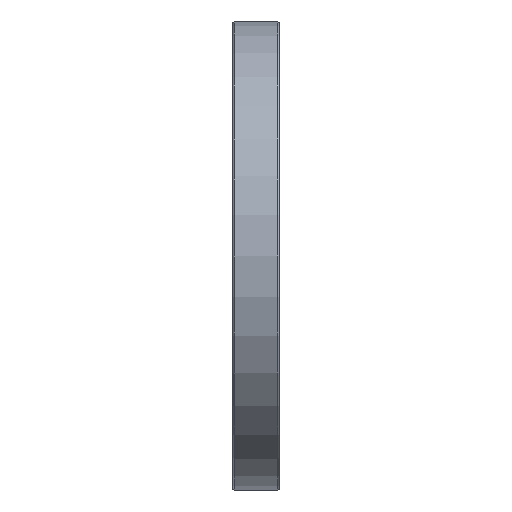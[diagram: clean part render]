
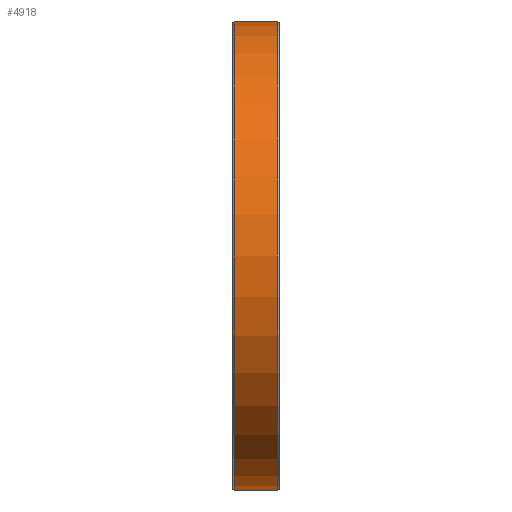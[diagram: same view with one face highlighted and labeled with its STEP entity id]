
A CAD part, left-side view. The second image highlights one B-rep face of the part: STEP entity #4918.
In plain terms, the highlighted cylindrical face has radius 130 mm (diameter 260 mm), a partial arc.
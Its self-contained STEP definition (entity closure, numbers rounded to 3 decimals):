
#68 = VECTOR ( 'NONE', #10979, 1000. ) ;
#376 = DIRECTION ( 'NONE',  ( 0., 1., 0. ) ) ;
#770 = CARTESIAN_POINT ( 'NONE',  ( -177.72, 25., 0. ) ) ;
#1236 = ORIENTED_EDGE ( 'NONE', *, *, #4563, .T. ) ;
#1246 = CYLINDRICAL_SURFACE ( 'NONE', #10467, 130. ) ;
#1555 = EDGE_CURVE ( 'NONE', #7372, #2608, #8187, .T. ) ;
#1999 = CARTESIAN_POINT ( 'NONE',  ( -177.72, 1., -130. ) ) ;
#2575 = VERTEX_POINT ( 'NONE', #4527 ) ;
#2608 = VERTEX_POINT ( 'NONE', #6404 ) ;
#2852 = DIRECTION ( 'NONE',  ( 0., -1., 0. ) ) ;
#3677 = CARTESIAN_POINT ( 'NONE',  ( -177.72, 26., -130. ) ) ;
#3931 = EDGE_LOOP ( 'NONE', ( #6260, #8627, #8600, #1236 ) ) ;
#4472 = CARTESIAN_POINT ( 'NONE',  ( -177.72, 25., 130. ) ) ;
#4527 = CARTESIAN_POINT ( 'NONE',  ( -177.72, 25., -130. ) ) ;
#4563 = EDGE_CURVE ( 'NONE', #6645, #2608, #5221, .T. ) ;
#4918 = ADVANCED_FACE ( 'NONE', ( #10277 ), #1246, .T. ) ;
#5221 = CIRCLE ( 'NONE', #7111, 130. ) ;
#5768 = EDGE_CURVE ( 'NONE', #2575, #6645, #10011, .T. ) ;
#6260 = ORIENTED_EDGE ( 'NONE', *, *, #1555, .F. ) ;
#6404 = CARTESIAN_POINT ( 'NONE',  ( -177.72, 1., 130. ) ) ;
#6645 = VERTEX_POINT ( 'NONE', #1999 ) ;
#6706 = DIRECTION ( 'NONE',  ( 0., 0., -1. ) ) ;
#6757 = CARTESIAN_POINT ( 'NONE',  ( -177.72, 26., 0. ) ) ;
#7056 = DIRECTION ( 'NONE',  ( 0., 0., 1. ) ) ;
#7111 = AXIS2_PLACEMENT_3D ( 'NONE', #8423, #376, #11158 ) ;
#7372 = VERTEX_POINT ( 'NONE', #4472 ) ;
#7515 = VECTOR ( 'NONE', #2852, 1000. ) ;
#7649 = DIRECTION ( 'NONE',  ( 0., -1., 0. ) ) ;
#7679 = EDGE_CURVE ( 'NONE', #7372, #2575, #8580, .T. ) ;
#8187 = LINE ( 'NONE', #8298, #68 ) ;
#8298 = CARTESIAN_POINT ( 'NONE',  ( -177.72, 26., 130. ) ) ;
#8423 = CARTESIAN_POINT ( 'NONE',  ( -177.72, 1., 0. ) ) ;
#8580 = CIRCLE ( 'NONE', #10071, 130. ) ;
#8600 = ORIENTED_EDGE ( 'NONE', *, *, #5768, .T. ) ;
#8627 = ORIENTED_EDGE ( 'NONE', *, *, #7679, .T. ) ;
#10011 = LINE ( 'NONE', #3677, #7515 ) ;
#10071 = AXIS2_PLACEMENT_3D ( 'NONE', #770, #10792, #7056 ) ;
#10277 = FACE_OUTER_BOUND ( 'NONE', #3931, .T. ) ;
#10467 = AXIS2_PLACEMENT_3D ( 'NONE', #6757, #7649, #6706 ) ;
#10792 = DIRECTION ( 'NONE',  ( 0., -1., 0. ) ) ;
#10979 = DIRECTION ( 'NONE',  ( 0., -1., 0. ) ) ;
#11158 = DIRECTION ( 'NONE',  ( 0., 0., 1. ) ) ;
